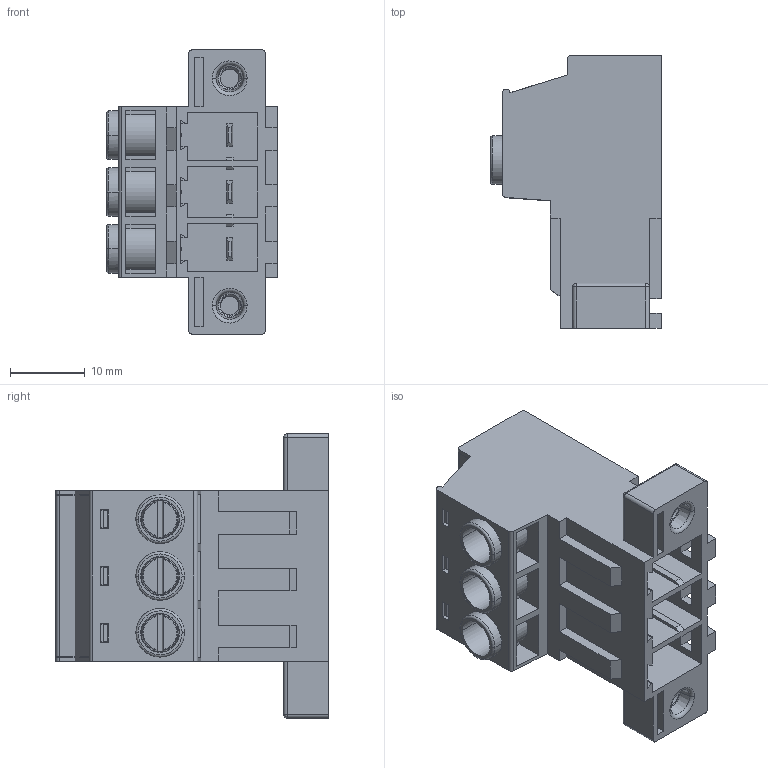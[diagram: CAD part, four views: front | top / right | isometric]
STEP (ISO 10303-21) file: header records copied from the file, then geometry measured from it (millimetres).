
FILE_DESCRIPTION((''),'2;1');
FILE_NAME('3PIN_SW0001','2019-05-14T',('zhenbing.lai'),(''),'CREO PARAMETRIC BY PTC INC, 2016260','CREO PARAMETRIC BY PTC INC, 2016260','');
FILE_SCHEMA(('CONFIG_CONTROL_DESIGN'));
Length unit declared in the file: millimetre
Products named in the file (1): 3PIN_SW0001
Bounding box: 22.9 x 36.55 x 38.1 mm (x, y, z)
Volume: 10234.2 mm3; surface area: 8846.3 mm2
Topology: 1 solids, 4 shells, 579 faces, 1601 edges, 1044 vertices
Faces by surface type: plane 435, cylinder 81, torus 25, cone 23, bspline 11, sphere 4
Entity records: 20993 total; most frequent: CARTESIAN_POINT 6311, ORIENTED_EDGE 3194, DIRECTION 2810, EDGE_CURVE 1597, VECTOR 1180, LINE 1180, VERTEX_POINT 1044, AXIS2_PLACEMENT_3D 815
